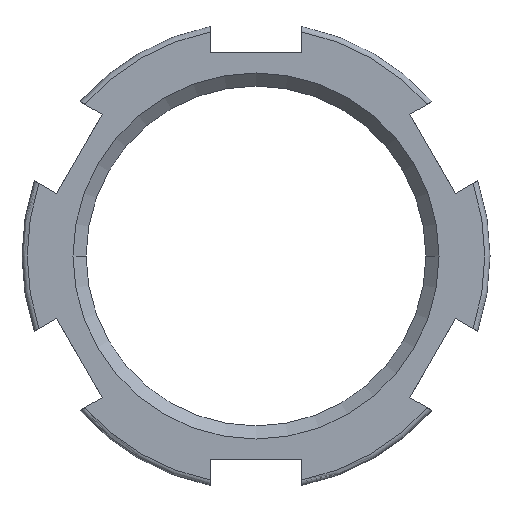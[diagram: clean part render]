
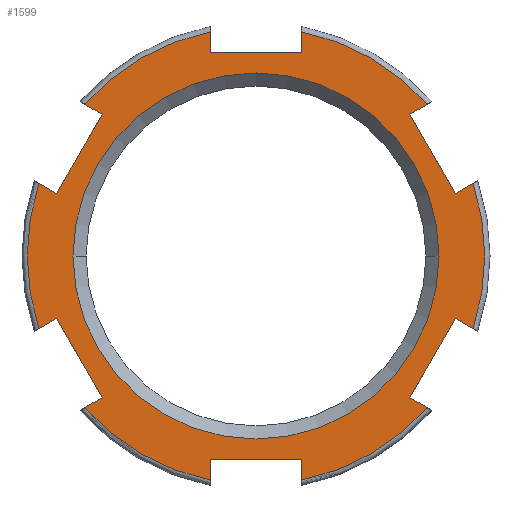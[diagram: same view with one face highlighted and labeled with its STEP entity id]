
A CAD part, front view. The second image highlights one B-rep face of the part: STEP entity #1599.
In plain terms, the highlighted planar face has unit normal (0, -1, 0).
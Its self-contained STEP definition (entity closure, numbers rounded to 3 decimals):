
#60=CARTESIAN_POINT('',(0.,0.,0.));
#61=DIRECTION('',(0.,1.,0.));
#62=DIRECTION('',(-1.,0.,0.));
#63=AXIS2_PLACEMENT_3D('',#60,#61,#62);
#90=DIRECTION('',(0.,0.,-1.));
#91=VECTOR('',#90,0.773);
#92=CARTESIAN_POINT('',(-1.75,0.,8.573));
#93=LINE('',#92,#91);
#97=DIRECTION('',(1.,0.,0.));
#98=VECTOR('',#97,3.5);
#99=CARTESIAN_POINT('',(-1.75,0.,7.8));
#100=LINE('',#99,#98);
#104=DIRECTION('',(0.,0.,-1.));
#105=VECTOR('',#104,0.773);
#106=CARTESIAN_POINT('',(1.75,0.,8.573));
#107=LINE('',#106,#105);
#111=DIRECTION('',(-0.866,0.,-0.5));
#112=VECTOR('',#111,0.773);
#113=CARTESIAN_POINT('',(6.55,0.,5.802));
#114=LINE('',#113,#112);
#118=DIRECTION('',(0.5,0.,-0.866));
#119=VECTOR('',#118,3.5);
#120=CARTESIAN_POINT('',(5.88,0.,5.416));
#121=LINE('',#120,#119);
#125=DIRECTION('',(0.866,0.,0.5));
#126=VECTOR('',#125,0.773);
#127=CARTESIAN_POINT('',(7.63,0.,2.384));
#128=LINE('',#127,#126);
#132=DIRECTION('',(-0.866,0.,0.5));
#133=VECTOR('',#132,0.773);
#134=CARTESIAN_POINT('',(8.3,0.,-2.771));
#135=LINE('',#134,#133);
#139=DIRECTION('',(-0.5,0.,-0.866));
#140=VECTOR('',#139,3.5);
#141=CARTESIAN_POINT('',(7.63,0.,-2.384));
#142=LINE('',#141,#140);
#146=DIRECTION('',(0.866,0.,-0.5));
#147=VECTOR('',#146,0.773);
#148=CARTESIAN_POINT('',(5.88,0.,-5.416));
#149=LINE('',#148,#147);
#153=DIRECTION('',(0.,0.,1.));
#154=VECTOR('',#153,0.773);
#155=CARTESIAN_POINT('',(1.75,0.,-8.573));
#156=LINE('',#155,#154);
#160=DIRECTION('',(-1.,0.,0.));
#161=VECTOR('',#160,3.5);
#162=CARTESIAN_POINT('',(1.75,0.,-7.8));
#163=LINE('',#162,#161);
#167=DIRECTION('',(0.,0.,1.));
#168=VECTOR('',#167,0.773);
#169=CARTESIAN_POINT('',(-1.75,0.,-8.573));
#170=LINE('',#169,#168);
#174=DIRECTION('',(0.866,0.,0.5));
#175=VECTOR('',#174,0.773);
#176=CARTESIAN_POINT('',(-6.55,0.,-5.802));
#177=LINE('',#176,#175);
#181=DIRECTION('',(-0.5,0.,0.866));
#182=VECTOR('',#181,3.5);
#183=CARTESIAN_POINT('',(-5.88,0.,-5.416));
#184=LINE('',#183,#182);
#188=DIRECTION('',(-0.866,0.,-0.5));
#189=VECTOR('',#188,0.773);
#190=CARTESIAN_POINT('',(-7.63,0.,-2.384));
#191=LINE('',#190,#189);
#195=DIRECTION('',(0.866,0.,-0.5));
#196=VECTOR('',#195,0.773);
#197=CARTESIAN_POINT('',(-8.3,0.,2.771));
#198=LINE('',#197,#196);
#202=DIRECTION('',(0.5,0.,0.866));
#203=VECTOR('',#202,3.5);
#204=CARTESIAN_POINT('',(-7.63,0.,2.384));
#205=LINE('',#204,#203);
#209=DIRECTION('',(-0.866,0.,0.5));
#210=VECTOR('',#209,0.773);
#211=CARTESIAN_POINT('',(-5.88,0.,5.416));
#212=LINE('',#211,#210);
#216=CARTESIAN_POINT('',(0.,0.,0.));
#217=DIRECTION('',(0.,-1.,0.));
#218=DIRECTION('',(-1.,0.,0.));
#219=AXIS2_PLACEMENT_3D('',#216,#217,#218);
#281=CARTESIAN_POINT('',(0.,0.,0.));
#282=DIRECTION('',(0.,-1.,0.));
#283=DIRECTION('',(-0.949,0.,0.317));
#284=AXIS2_PLACEMENT_3D('',#281,#282,#283);
#321=CARTESIAN_POINT('',(0.,0.,0.));
#322=DIRECTION('',(0.,-1.,0.));
#323=DIRECTION('',(-0.749,0.,-0.663));
#324=AXIS2_PLACEMENT_3D('',#321,#322,#323);
#361=CARTESIAN_POINT('',(0.,0.,0.));
#362=DIRECTION('',(0.,-1.,0.));
#363=DIRECTION('',(0.2,0.,-0.98));
#364=AXIS2_PLACEMENT_3D('',#361,#362,#363);
#401=CARTESIAN_POINT('',(0.,0.,0.));
#402=DIRECTION('',(0.,-1.,0.));
#403=DIRECTION('',(0.949,0.,-0.317));
#404=AXIS2_PLACEMENT_3D('',#401,#402,#403);
#421=CARTESIAN_POINT('',(0.,0.,0.));
#422=DIRECTION('',(0.,-1.,0.));
#423=DIRECTION('',(-0.2,0.,0.98));
#424=AXIS2_PLACEMENT_3D('',#421,#422,#423);
#481=CARTESIAN_POINT('',(0.,0.,0.));
#482=DIRECTION('',(0.,-1.,0.));
#483=DIRECTION('',(0.749,0.,0.663));
#484=AXIS2_PLACEMENT_3D('',#481,#482,#483);
#1342=CARTESIAN_POINT('',(-8.3,0.,2.771));
#1343=CARTESIAN_POINT('',(-7.63,0.,2.384));
#1344=VERTEX_POINT('',#1342);
#1345=VERTEX_POINT('',#1343);
#1346=CARTESIAN_POINT('',(-5.88,0.,5.416));
#1347=VERTEX_POINT('',#1346);
#1348=CARTESIAN_POINT('',(-6.55,0.,5.802));
#1349=VERTEX_POINT('',#1348);
#1363=CARTESIAN_POINT('',(-6.55,0.,-5.802));
#1364=CARTESIAN_POINT('',(-5.88,0.,-5.416));
#1365=VERTEX_POINT('',#1363);
#1366=VERTEX_POINT('',#1364);
#1367=CARTESIAN_POINT('',(-7.63,0.,-2.384));
#1368=VERTEX_POINT('',#1367);
#1369=CARTESIAN_POINT('',(-8.3,0.,-2.771));
#1370=VERTEX_POINT('',#1369);
#1384=CARTESIAN_POINT('',(1.75,0.,-8.573));
#1385=CARTESIAN_POINT('',(1.75,0.,-7.8));
#1386=VERTEX_POINT('',#1384);
#1387=VERTEX_POINT('',#1385);
#1388=CARTESIAN_POINT('',(-1.75,0.,-7.8));
#1389=VERTEX_POINT('',#1388);
#1390=CARTESIAN_POINT('',(-1.75,0.,-8.573));
#1391=VERTEX_POINT('',#1390);
#1405=CARTESIAN_POINT('',(8.3,0.,-2.771));
#1406=CARTESIAN_POINT('',(7.63,0.,-2.384));
#1407=VERTEX_POINT('',#1405);
#1408=VERTEX_POINT('',#1406);
#1409=CARTESIAN_POINT('',(5.88,0.,-5.416));
#1410=VERTEX_POINT('',#1409);
#1411=CARTESIAN_POINT('',(6.55,0.,-5.802));
#1412=VERTEX_POINT('',#1411);
#1426=CARTESIAN_POINT('',(6.55,0.,5.802));
#1427=CARTESIAN_POINT('',(5.88,0.,5.416));
#1428=VERTEX_POINT('',#1426);
#1429=VERTEX_POINT('',#1427);
#1430=CARTESIAN_POINT('',(7.63,0.,2.384));
#1431=VERTEX_POINT('',#1430);
#1432=CARTESIAN_POINT('',(8.3,0.,2.771));
#1433=VERTEX_POINT('',#1432);
#1448=CARTESIAN_POINT('',(-1.75,0.,8.573));
#1449=CARTESIAN_POINT('',(-1.75,0.,7.8));
#1450=VERTEX_POINT('',#1448);
#1451=VERTEX_POINT('',#1449);
#1452=CARTESIAN_POINT('',(1.75,0.,7.8));
#1453=VERTEX_POINT('',#1452);
#1454=CARTESIAN_POINT('',(1.75,0.,8.573));
#1455=VERTEX_POINT('',#1454);
#1478=CARTESIAN_POINT('',(-7.,0.,0.));
#1479=CARTESIAN_POINT('',(7.,0.,0.));
#1480=VERTEX_POINT('',#1478);
#1481=VERTEX_POINT('',#1479);
#1539=CARTESIAN_POINT('',(0.,0.,0.));
#1540=DIRECTION('',(0.,-1.,0.));
#1541=DIRECTION('',(1.,0.,0.));
#1542=AXIS2_PLACEMENT_3D('',#1539,#1540,#1541);
#1543=PLANE('',#1542);
#1545=ORIENTED_EDGE('',*,*,#1544,.T.);
#1547=ORIENTED_EDGE('',*,*,#1546,.T.);
#1549=ORIENTED_EDGE('',*,*,#1548,.F.);
#1551=ORIENTED_EDGE('',*,*,#1550,.F.);
#1553=ORIENTED_EDGE('',*,*,#1552,.T.);
#1555=ORIENTED_EDGE('',*,*,#1554,.T.);
#1557=ORIENTED_EDGE('',*,*,#1556,.T.);
#1559=ORIENTED_EDGE('',*,*,#1558,.F.);
#1561=ORIENTED_EDGE('',*,*,#1560,.T.);
#1563=ORIENTED_EDGE('',*,*,#1562,.T.);
#1565=ORIENTED_EDGE('',*,*,#1564,.T.);
#1567=ORIENTED_EDGE('',*,*,#1566,.F.);
#1569=ORIENTED_EDGE('',*,*,#1568,.T.);
#1571=ORIENTED_EDGE('',*,*,#1570,.T.);
#1573=ORIENTED_EDGE('',*,*,#1572,.F.);
#1575=ORIENTED_EDGE('',*,*,#1574,.F.);
#1577=ORIENTED_EDGE('',*,*,#1576,.T.);
#1579=ORIENTED_EDGE('',*,*,#1578,.T.);
#1581=ORIENTED_EDGE('',*,*,#1580,.T.);
#1583=ORIENTED_EDGE('',*,*,#1582,.F.);
#1585=ORIENTED_EDGE('',*,*,#1584,.T.);
#1587=ORIENTED_EDGE('',*,*,#1586,.T.);
#1589=ORIENTED_EDGE('',*,*,#1588,.T.);
#1591=ORIENTED_EDGE('',*,*,#1590,.F.);
#1592=EDGE_LOOP('',(#1545,#1547,#1549,#1551,#1553,#1555,#1557,#1559,#1561,#1563,
#1565,#1567,#1569,#1571,#1573,#1575,#1577,#1579,#1581,#1583,#1585,#1587,#1589,
#1591));
#1593=FACE_OUTER_BOUND('',#1592,.F.);
#1594=ORIENTED_EDGE('',*,*,#1529,.F.);
#1596=ORIENTED_EDGE('',*,*,#1595,.T.);
#1597=EDGE_LOOP('',(#1594,#1596));
#1598=FACE_BOUND('',#1597,.F.);
#64=CIRCLE('',#63,7.);
#220=CIRCLE('',#219,7.);
#285=CIRCLE('',#284,8.75);
#325=CIRCLE('',#324,8.75);
#365=CIRCLE('',#364,8.75);
#405=CIRCLE('',#404,8.75);
#425=CIRCLE('',#424,8.75);
#485=CIRCLE('',#484,8.75);
#1529=EDGE_CURVE('',#1480,#1481,#64,.T.);
#1544=EDGE_CURVE('',#1450,#1451,#93,.T.);
#1546=EDGE_CURVE('',#1451,#1453,#100,.T.);
#1548=EDGE_CURVE('',#1455,#1453,#107,.T.);
#1550=EDGE_CURVE('',#1428,#1455,#485,.T.);
#1552=EDGE_CURVE('',#1428,#1429,#114,.T.);
#1554=EDGE_CURVE('',#1429,#1431,#121,.T.);
#1556=EDGE_CURVE('',#1431,#1433,#128,.T.);
#1558=EDGE_CURVE('',#1407,#1433,#405,.T.);
#1560=EDGE_CURVE('',#1407,#1408,#135,.T.);
#1562=EDGE_CURVE('',#1408,#1410,#142,.T.);
#1564=EDGE_CURVE('',#1410,#1412,#149,.T.);
#1566=EDGE_CURVE('',#1386,#1412,#365,.T.);
#1568=EDGE_CURVE('',#1386,#1387,#156,.T.);
#1570=EDGE_CURVE('',#1387,#1389,#163,.T.);
#1572=EDGE_CURVE('',#1391,#1389,#170,.T.);
#1574=EDGE_CURVE('',#1365,#1391,#325,.T.);
#1576=EDGE_CURVE('',#1365,#1366,#177,.T.);
#1578=EDGE_CURVE('',#1366,#1368,#184,.T.);
#1580=EDGE_CURVE('',#1368,#1370,#191,.T.);
#1582=EDGE_CURVE('',#1344,#1370,#285,.T.);
#1584=EDGE_CURVE('',#1344,#1345,#198,.T.);
#1586=EDGE_CURVE('',#1345,#1347,#205,.T.);
#1588=EDGE_CURVE('',#1347,#1349,#212,.T.);
#1590=EDGE_CURVE('',#1450,#1349,#425,.T.);
#1595=EDGE_CURVE('',#1480,#1481,#220,.T.);
#1599=ADVANCED_FACE('',(#1593,#1598),#1543,.T.);
